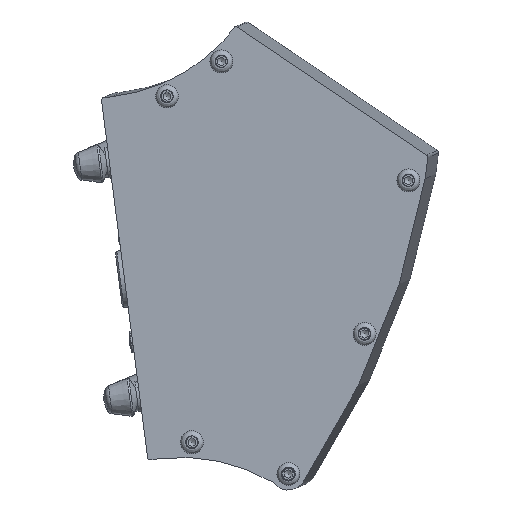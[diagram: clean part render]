
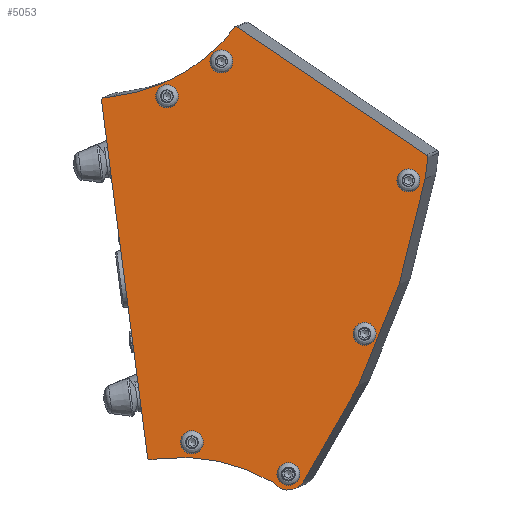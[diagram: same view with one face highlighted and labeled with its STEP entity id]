
A CAD part, left-side view. The second image highlights one B-rep face of the part: STEP entity #5053.
In plain terms, the highlighted planar face has unit normal (-1, 0.004, -0.002).
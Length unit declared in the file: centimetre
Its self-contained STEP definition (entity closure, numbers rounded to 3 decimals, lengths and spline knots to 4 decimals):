
#111=LINE('',#7446,#309);
#176=LINE('',#8253,#374);
#177=LINE('',#8257,#375);
#178=LINE('',#8261,#376);
#179=LINE('',#8265,#377);
#180=LINE('',#8270,#378);
#309=VECTOR('',#6021,11.97);
#374=VECTOR('',#6752,0.7059);
#375=VECTOR('',#6755,7.5636);
#376=VECTOR('',#6758,0.5447);
#377=VECTOR('',#6761,0.3275);
#378=VECTOR('',#6766,0.3275);
#593=PLANE('',#5619);
#986=FACE_BOUND('',#1790,.T.);
#987=FACE_BOUND('',#1791,.T.);
#988=FACE_BOUND('',#1792,.T.);
#989=FACE_BOUND('',#1793,.T.);
#990=FACE_BOUND('',#1794,.T.);
#991=FACE_BOUND('',#1795,.T.);
#992=FACE_BOUND('',#1796,.T.);
#1790=EDGE_LOOP('',(#3863));
#1791=EDGE_LOOP('',(#3864));
#1792=EDGE_LOOP('',(#3865,#3866,#3867,#3868,#3869,#3870,#3871,#3872,#3873,
#3874,#3875,#3876,#3877,#3878));
#1793=EDGE_LOOP('',(#3879));
#1794=EDGE_LOOP('',(#3880));
#1795=EDGE_LOOP('',(#3881));
#1796=EDGE_LOOP('',(#3882));
#2178=CIRCLE('',#5611,0.38);
#2179=CIRCLE('',#5620,0.38);
#2180=CIRCLE('',#5621,0.38);
#2181=CIRCLE('',#5622,25.8354);
#2182=CIRCLE('',#5623,0.0823);
#2183=CIRCLE('',#5624,0.0802);
#2184=CIRCLE('',#5625,5.9899);
#2185=CIRCLE('',#5626,0.06);
#2186=CIRCLE('',#5627,0.06);
#2187=CIRCLE('',#5628,6.0349);
#2188=CIRCLE('',#5629,0.603);
#2189=CIRCLE('',#5630,0.38);
#2190=CIRCLE('',#5631,0.38);
#2191=CIRCLE('',#5632,0.38);
#2315=VERTEX_POINT('',#7443);
#2316=VERTEX_POINT('',#7445);
#2522=VERTEX_POINT('',#8205);
#2529=VERTEX_POINT('',#8245);
#2530=VERTEX_POINT('',#8247);
#2531=VERTEX_POINT('',#8249);
#2532=VERTEX_POINT('',#8250);
#2533=VERTEX_POINT('',#8252);
#2534=VERTEX_POINT('',#8254);
#2535=VERTEX_POINT('',#8256);
#2536=VERTEX_POINT('',#8258);
#2537=VERTEX_POINT('',#8260);
#2538=VERTEX_POINT('',#8262);
#2539=VERTEX_POINT('',#8264);
#2540=VERTEX_POINT('',#8267);
#2541=VERTEX_POINT('',#8269);
#2542=VERTEX_POINT('',#8271);
#2543=VERTEX_POINT('',#8274);
#2544=VERTEX_POINT('',#8276);
#2545=VERTEX_POINT('',#8278);
#2774=EDGE_CURVE('',#2316,#2315,#111,.T.);
#3007=EDGE_CURVE('',#2522,#2522,#2178,.T.);
#3020=EDGE_CURVE('',#2529,#2529,#2179,.T.);
#3021=EDGE_CURVE('',#2530,#2530,#2180,.T.);
#3022=EDGE_CURVE('',#2531,#2532,#2181,.T.);
#3023=EDGE_CURVE('',#2532,#2533,#176,.T.);
#3024=EDGE_CURVE('',#2533,#2534,#2182,.T.);
#3025=EDGE_CURVE('',#2534,#2535,#177,.T.);
#3026=EDGE_CURVE('',#2535,#2536,#2183,.T.);
#3027=EDGE_CURVE('',#2536,#2537,#178,.T.);
#3028=EDGE_CURVE('',#2537,#2538,#2184,.T.);
#3029=EDGE_CURVE('',#2538,#2539,#179,.T.);
#3030=EDGE_CURVE('',#2539,#2316,#2185,.T.);
#3031=EDGE_CURVE('',#2315,#2540,#2186,.T.);
#3032=EDGE_CURVE('',#2540,#2541,#180,.T.);
#3033=EDGE_CURVE('',#2541,#2542,#2187,.T.);
#3034=EDGE_CURVE('',#2542,#2531,#2188,.T.);
#3035=EDGE_CURVE('',#2543,#2543,#2189,.T.);
#3036=EDGE_CURVE('',#2544,#2544,#2190,.T.);
#3037=EDGE_CURVE('',#2545,#2545,#2191,.T.);
#3863=ORIENTED_EDGE('',*,*,#3020,.T.);
#3864=ORIENTED_EDGE('',*,*,#3021,.T.);
#3865=ORIENTED_EDGE('',*,*,#3022,.T.);
#3866=ORIENTED_EDGE('',*,*,#3023,.T.);
#3867=ORIENTED_EDGE('',*,*,#3024,.T.);
#3868=ORIENTED_EDGE('',*,*,#3025,.T.);
#3869=ORIENTED_EDGE('',*,*,#3026,.T.);
#3870=ORIENTED_EDGE('',*,*,#3027,.T.);
#3871=ORIENTED_EDGE('',*,*,#3028,.T.);
#3872=ORIENTED_EDGE('',*,*,#3029,.T.);
#3873=ORIENTED_EDGE('',*,*,#3030,.T.);
#3874=ORIENTED_EDGE('',*,*,#2774,.T.);
#3875=ORIENTED_EDGE('',*,*,#3031,.T.);
#3876=ORIENTED_EDGE('',*,*,#3032,.T.);
#3877=ORIENTED_EDGE('',*,*,#3033,.T.);
#3878=ORIENTED_EDGE('',*,*,#3034,.T.);
#3879=ORIENTED_EDGE('',*,*,#3035,.T.);
#3880=ORIENTED_EDGE('',*,*,#3036,.T.);
#3881=ORIENTED_EDGE('',*,*,#3037,.T.);
#3882=ORIENTED_EDGE('',*,*,#3007,.T.);
#5053=ADVANCED_FACE('',(#986,#987,#988,#989,#990,#991,#992),#593,.F.);
#5611=AXIS2_PLACEMENT_3D('',#8206,#6722,#6723);
#5619=AXIS2_PLACEMENT_3D('',#8244,#6744,#6745);
#5620=AXIS2_PLACEMENT_3D('',#8246,#6746,#6747);
#5621=AXIS2_PLACEMENT_3D('',#8248,#6748,#6749);
#5622=AXIS2_PLACEMENT_3D('',#8251,#6750,#6751);
#5623=AXIS2_PLACEMENT_3D('',#8255,#6753,#6754);
#5624=AXIS2_PLACEMENT_3D('',#8259,#6756,#6757);
#5625=AXIS2_PLACEMENT_3D('',#8263,#6759,#6760);
#5626=AXIS2_PLACEMENT_3D('',#8266,#6762,#6763);
#5627=AXIS2_PLACEMENT_3D('',#8268,#6764,#6765);
#5628=AXIS2_PLACEMENT_3D('',#8272,#6767,#6768);
#5629=AXIS2_PLACEMENT_3D('',#8273,#6769,#6770);
#5630=AXIS2_PLACEMENT_3D('',#8275,#6771,#6772);
#5631=AXIS2_PLACEMENT_3D('',#8277,#6773,#6774);
#5632=AXIS2_PLACEMENT_3D('',#8279,#6775,#6776);
#6021=DIRECTION('',(0.001,-0.128,-0.992));
#6722=DIRECTION('center_axis',(1.,-0.004,0.002));
#6723=DIRECTION('ref_axis',(0.004,1.,0.));
#6744=DIRECTION('center_axis',(1.,-0.004,0.002));
#6745=DIRECTION('ref_axis',(0.003,0.924,0.383));
#6746=DIRECTION('center_axis',(1.,-0.004,0.002));
#6747=DIRECTION('ref_axis',(0.004,1.,0.));
#6748=DIRECTION('center_axis',(1.,-0.004,0.002));
#6749=DIRECTION('ref_axis',(0.004,1.,0.));
#6750=DIRECTION('center_axis',(-1.,0.004,-0.002));
#6751=DIRECTION('ref_axis',(-0.002,-0.831,-0.557));
#6752=DIRECTION('',(-0.002,-0.12,0.993));
#6753=DIRECTION('center_axis',(-1.,0.004,-0.002));
#6754=DIRECTION('ref_axis',(-0.003,-0.997,-0.079));
#6755=DIRECTION('',(0.002,0.828,0.56));
#6756=DIRECTION('center_axis',(-1.,0.004,-0.002));
#6757=DIRECTION('ref_axis',(-0.003,-0.65,0.76));
#6758=DIRECTION('',(0.003,0.615,-0.789));
#6759=DIRECTION('center_axis',(1.,-0.004,0.002));
#6760=DIRECTION('ref_axis',(-0.001,0.115,0.993));
#6761=DIRECTION('',(0.004,0.992,-0.128));
#6762=DIRECTION('center_axis',(-1.,0.004,-0.002));
#6763=DIRECTION('ref_axis',(-0.001,0.128,0.992));
#6764=DIRECTION('center_axis',(-1.,0.004,-0.002));
#6765=DIRECTION('ref_axis',(0.004,0.992,-0.128));
#6766=DIRECTION('',(-0.004,-0.992,0.128));
#6767=DIRECTION('center_axis',(1.,-0.004,0.002));
#6768=DIRECTION('ref_axis',(0.003,0.507,-0.862));
#6769=DIRECTION('center_axis',(-1.,0.004,-0.002));
#6770=DIRECTION('ref_axis',(0.004,0.811,-0.584));
#6771=DIRECTION('center_axis',(1.,-0.004,0.002));
#6772=DIRECTION('ref_axis',(0.004,1.,0.));
#6773=DIRECTION('center_axis',(1.,-0.004,0.002));
#6774=DIRECTION('ref_axis',(0.004,1.,0.));
#6775=DIRECTION('center_axis',(1.,-0.004,0.002));
#6776=DIRECTION('ref_axis',(0.004,1.,0.));
#7443=CARTESIAN_POINT('',(-46.4607,4.4659,11.451));
#7445=CARTESIAN_POINT('',(-46.4737,6.0018,23.322));
#7446=CARTESIAN_POINT('',(-46.4737,6.0018,23.322));
#8205=CARTESIAN_POINT('',(-46.4802,4.2081,23.4433));
#8206=CARTESIAN_POINT('Origin',(-46.4815,3.8281,23.4433));
#8244=CARTESIAN_POINT('Origin',(-46.483,1.2048,18.403));
#8245=CARTESIAN_POINT('',(-46.4911,-2.3354,15.5751));
#8246=CARTESIAN_POINT('Origin',(-46.4924,-2.7154,15.5751));
#8247=CARTESIAN_POINT('',(-46.4883,2.4067,24.5967));
#8248=CARTESIAN_POINT('Origin',(-46.4897,2.0267,24.5967));
#8249=CARTESIAN_POINT('',(-46.478,-0.7309,10.758));
#8250=CARTESIAN_POINT('',(-46.5074,-4.7247,20.7194));
#8251=CARTESIAN_POINT('Origin',(-46.4246,20.729,25.1434));
#8252=CARTESIAN_POINT('',(-46.5088,-4.8093,21.4202));
#8253=CARTESIAN_POINT('',(-46.5074,-4.7247,20.7194));
#8254=CARTESIAN_POINT('',(-46.5088,-4.7747,21.4939));
#8255=CARTESIAN_POINT('Origin',(-46.5086,-4.7273,21.4267));
#8256=CARTESIAN_POINT('',(-46.4933,1.4915,25.7297));
#8257=CARTESIAN_POINT('',(-46.5088,-4.7747,21.4939));
#8258=CARTESIAN_POINT('',(-46.4929,1.6034,25.7222));
#8259=CARTESIAN_POINT('Origin',(-46.493,1.5436,25.6687));
#8260=CARTESIAN_POINT('',(-46.4911,1.9383,25.2926));
#8261=CARTESIAN_POINT('',(-46.4929,1.6034,25.7222));
#8262=CARTESIAN_POINT('',(-46.4752,5.6252,23.4312));
#8263=CARTESIAN_POINT('Origin',(-46.482,6.3157,29.3812));
#8264=CARTESIAN_POINT('',(-46.474,5.95,23.3892));
#8265=CARTESIAN_POINT('',(-46.4752,5.6252,23.4312));
#8266=CARTESIAN_POINT('Origin',(-46.4739,5.9423,23.3297));
#8267=CARTESIAN_POINT('',(-46.4609,4.3987,11.3992));
#8268=CARTESIAN_POINT('Origin',(-46.461,4.4064,11.4587));
#8269=CARTESIAN_POINT('',(-46.4621,4.074,11.4412));
#8270=CARTESIAN_POINT('',(-46.4609,4.3987,11.3992));
#8271=CARTESIAN_POINT('',(-46.4741,0.3091,10.6513));
#8272=CARTESIAN_POINT('Origin',(-46.4553,3.3661,5.448));
#8273=CARTESIAN_POINT('Origin',(-46.4764,-0.1802,11.0037));
#8274=CARTESIAN_POINT('',(-46.4654,3.383,11.9839));
#8275=CARTESIAN_POINT('Origin',(-46.4667,3.003,11.9839));
#8276=CARTESIAN_POINT('',(-46.5041,-3.7905,20.6563));
#8277=CARTESIAN_POINT('Origin',(-46.5054,-4.1705,20.6563));
#8278=CARTESIAN_POINT('',(-46.475,0.1858,10.9305));
#8279=CARTESIAN_POINT('Origin',(-46.4763,-0.1942,10.9305));
